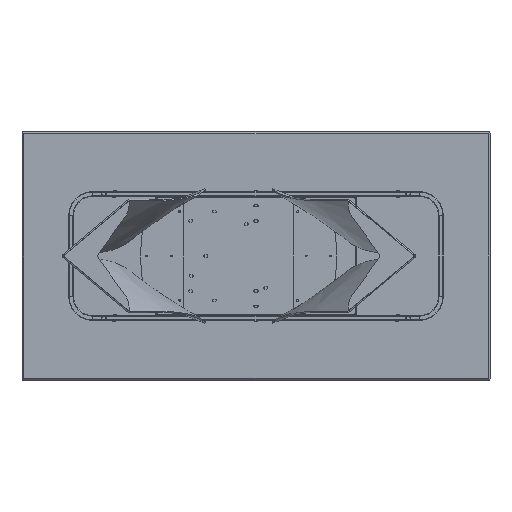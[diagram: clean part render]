
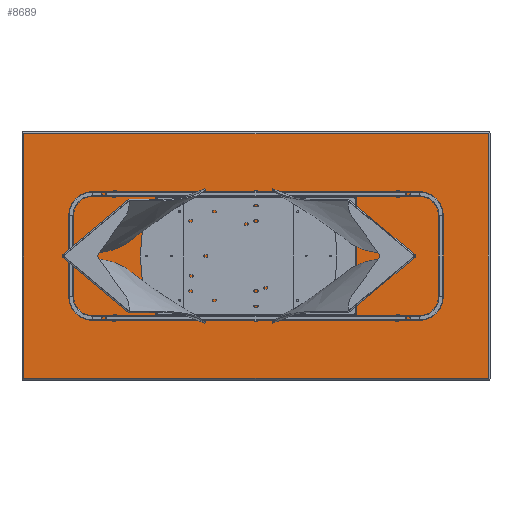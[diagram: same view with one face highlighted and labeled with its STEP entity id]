
A CAD part, front view. The second image highlights one B-rep face of the part: STEP entity #8689.
In plain terms, the highlighted planar face has unit normal (0, -1, 0).
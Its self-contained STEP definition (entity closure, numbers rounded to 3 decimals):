
#327 = DIRECTION ( 'NONE',  ( -1., 0., 0. ) ) ;
#1342 = CARTESIAN_POINT ( 'NONE',  ( 992., 0., 0. ) ) ;
#1504 = ORIENTED_EDGE ( 'NONE', *, *, #7766, .T. ) ;
#1533 = CARTESIAN_POINT ( 'NONE',  ( -992., 0., -522. ) ) ;
#1559 = CARTESIAN_POINT ( 'NONE',  ( 992., 0., 522. ) ) ;
#2155 = CARTESIAN_POINT ( 'NONE',  ( -992., 0., 0. ) ) ;
#2937 = EDGE_CURVE ( 'NONE', #19313, #20076, #8375, .T. ) ;
#4766 = AXIS2_PLACEMENT_3D ( 'NONE', #21204, #12381, #7961 ) ;
#5678 = EDGE_LOOP ( 'NONE', ( #18970, #10674, #1504, #9608 ) ) ;
#7766 = EDGE_CURVE ( 'NONE', #11134, #19313, #14666, .T. ) ;
#7864 = CARTESIAN_POINT ( 'NONE',  ( -992., 0., 522. ) ) ;
#7961 = DIRECTION ( 'NONE',  ( 0., 0., 1. ) ) ;
#8375 = LINE ( 'NONE', #22546, #8768 ) ;
#8689 = ADVANCED_FACE ( 'NONE', ( #15862 ), #14124, .F. ) ;
#8768 = VECTOR ( 'NONE', #11858, 1000. ) ;
#9608 = ORIENTED_EDGE ( 'NONE', *, *, #2937, .T. ) ;
#10059 = CARTESIAN_POINT ( 'NONE',  ( 992., 0., -522. ) ) ;
#10674 = ORIENTED_EDGE ( 'NONE', *, *, #18360, .T. ) ;
#10943 = DIRECTION ( 'NONE',  ( 0., 0., -1. ) ) ;
#11134 = VERTEX_POINT ( 'NONE', #7864 ) ;
#11842 = VECTOR ( 'NONE', #327, 1000. ) ;
#11858 = DIRECTION ( 'NONE',  ( 1., 0., 0. ) ) ;
#12381 = DIRECTION ( 'NONE',  ( 0., 1., 0. ) ) ;
#13012 = VECTOR ( 'NONE', #20301, 1000. ) ;
#14124 = PLANE ( 'NONE',  #4766 ) ;
#14590 = LINE ( 'NONE', #16203, #11842 ) ;
#14666 = LINE ( 'NONE', #2155, #17322 ) ;
#15862 = FACE_OUTER_BOUND ( 'NONE', #5678, .T. ) ;
#16203 = CARTESIAN_POINT ( 'NONE',  ( 0., 0., 522. ) ) ;
#17014 = VERTEX_POINT ( 'NONE', #1559 ) ;
#17322 = VECTOR ( 'NONE', #10943, 1000. ) ;
#18360 = EDGE_CURVE ( 'NONE', #17014, #11134, #14590, .T. ) ;
#18970 = ORIENTED_EDGE ( 'NONE', *, *, #20195, .T. ) ;
#19313 = VERTEX_POINT ( 'NONE', #1533 ) ;
#20076 = VERTEX_POINT ( 'NONE', #10059 ) ;
#20195 = EDGE_CURVE ( 'NONE', #20076, #17014, #22467, .T. ) ;
#20301 = DIRECTION ( 'NONE',  ( 0., 0., 1. ) ) ;
#21204 = CARTESIAN_POINT ( 'NONE',  ( 0., 0., 0. ) ) ;
#22467 = LINE ( 'NONE', #1342, #13012 ) ;
#22546 = CARTESIAN_POINT ( 'NONE',  ( 0., 0., -522. ) ) ;
